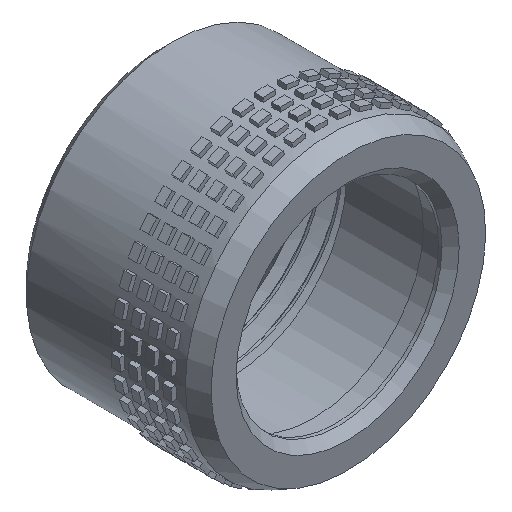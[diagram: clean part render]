
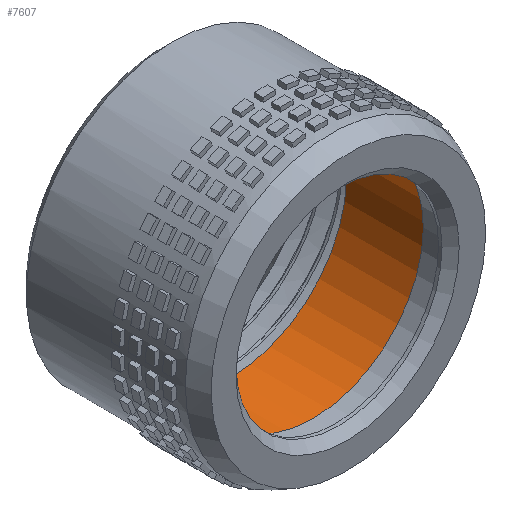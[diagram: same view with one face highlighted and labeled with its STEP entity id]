
A CAD part, isometric view. The second image highlights one B-rep face of the part: STEP entity #7607.
In plain terms, the highlighted cylindrical face has radius 13.5 mm (diameter 27 mm), a full revolution.
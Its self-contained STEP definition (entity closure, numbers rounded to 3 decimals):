
#6900=CARTESIAN_POINT('',(-11.691,33.134,-63.25));
#6901=VERTEX_POINT('',#6900);
#6902=CARTESIAN_POINT('',(-0.,33.134,-56.5));
#6903=VERTEX_POINT('',#6902);
#6904=CARTESIAN_POINT('',(0.,33.134,-70.));
#6905=DIRECTION('',(0.,1.,0.));
#6906=DIRECTION('',(0.,-0.,1.));
#6907=AXIS2_PLACEMENT_3D('',#6904,#6905,#6906);
#6908=CIRCLE('',#6907,13.5);
#6909=EDGE_CURVE('',#6901,#6903,#6908,.T.);
#6911=CARTESIAN_POINT('',(0.,33.134,-70.));
#6912=DIRECTION('',(0.,1.,0.));
#6913=DIRECTION('',(0.,-0.,1.));
#6914=AXIS2_PLACEMENT_3D('',#6911,#6912,#6913);
#6915=CIRCLE('',#6914,13.5);
#6916=EDGE_CURVE('',#6903,#6901,#6915,.T.);
#7573=CARTESIAN_POINT('',(0.,23.634,-70.));
#7574=DIRECTION('',(0.,1.,0.));
#7575=DIRECTION('',(-0.866,0.,0.5));
#7576=AXIS2_PLACEMENT_3D('',#7573,#7574,#7575);
#7577=CYLINDRICAL_SURFACE('',#7576,13.5);
#7578=CARTESIAN_POINT('',(-11.691,23.634,-63.25));
#7579=VERTEX_POINT('',#7578);
#7580=CARTESIAN_POINT('',(-11.691,33.134,-63.25));
#7581=DIRECTION('',(-0.,-1.,-0.));
#7582=VECTOR('',#7581,9.5);
#7583=LINE('',#7580,#7582);
#7584=EDGE_CURVE('',#6901,#7579,#7583,.T.);
#7585=ORIENTED_EDGE('',*,*,#7584,.F.);
#7586=ORIENTED_EDGE('',*,*,#6909,.T.);
#7587=ORIENTED_EDGE('',*,*,#6916,.T.);
#7588=ORIENTED_EDGE('',*,*,#7584,.T.);
#7589=CARTESIAN_POINT('',(-0.,23.634,-56.5));
#7590=VERTEX_POINT('',#7589);
#7591=CARTESIAN_POINT('',(0.,23.634,-70.));
#7592=DIRECTION('',(0.,1.,0.));
#7593=DIRECTION('',(0.,-0.,1.));
#7594=AXIS2_PLACEMENT_3D('',#7591,#7592,#7593);
#7595=CIRCLE('',#7594,13.5);
#7596=EDGE_CURVE('',#7590,#7579,#7595,.T.);
#7597=ORIENTED_EDGE('',*,*,#7596,.F.);
#7598=CARTESIAN_POINT('',(0.,23.634,-70.));
#7599=DIRECTION('',(0.,1.,0.));
#7600=DIRECTION('',(0.,-0.,1.));
#7601=AXIS2_PLACEMENT_3D('',#7598,#7599,#7600);
#7602=CIRCLE('',#7601,13.5);
#7603=EDGE_CURVE('',#7579,#7590,#7602,.T.);
#7604=ORIENTED_EDGE('',*,*,#7603,.F.);
#7605=EDGE_LOOP('',(#7585,#7586,#7587,#7588,#7597,#7604));
#7606=FACE_BOUND('',#7605,.T.);
#7607=ADVANCED_FACE('',(#7606),#7577,.F.);
